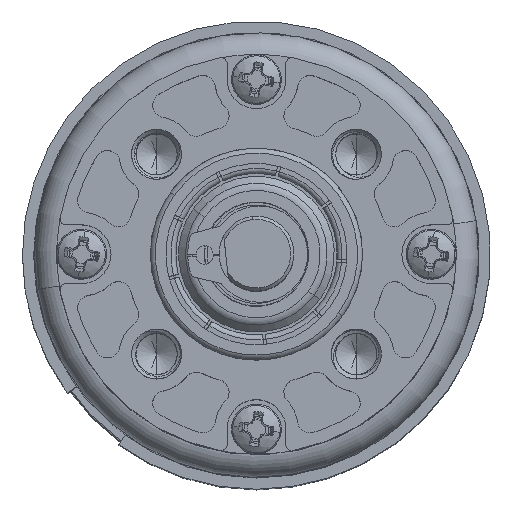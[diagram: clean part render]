
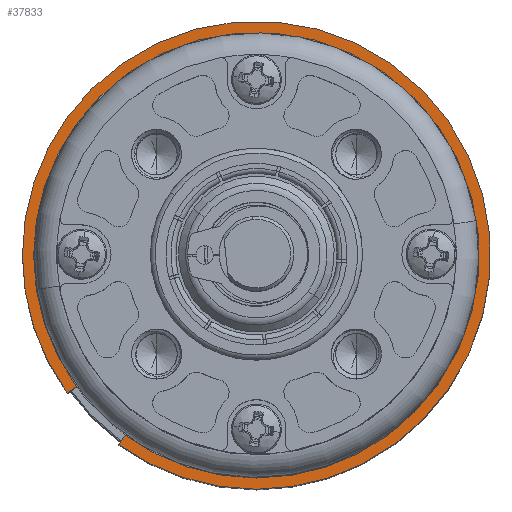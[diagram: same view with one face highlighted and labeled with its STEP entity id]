
A CAD part, top view. The second image highlights one B-rep face of the part: STEP entity #37833.
In plain terms, the highlighted planar face has unit normal (0, 0, 1).
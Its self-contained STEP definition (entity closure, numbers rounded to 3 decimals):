
#273 = EDGE_CURVE ( 'NONE', #17086, #41850, #58215, .T. ) ;
#826 = AXIS2_PLACEMENT_3D ( 'NONE', #48451, #58830, #5223 ) ;
#2481 = CARTESIAN_POINT ( 'NONE',  ( 0., 0., -47.25 ) ) ;
#3942 = CARTESIAN_POINT ( 'NONE',  ( 0., 0., -47.25 ) ) ;
#5107 = ORIENTED_EDGE ( 'NONE', *, *, #273, .T. ) ;
#5179 = DIRECTION ( 'NONE',  ( 0., 0., -1. ) ) ;
#5223 = DIRECTION ( 'NONE',  ( 0.707, -0.707, 0. ) ) ;
#5458 = CARTESIAN_POINT ( 'NONE',  ( 13.258, -13.258, -47.25 ) ) ;
#5649 = DIRECTION ( 'NONE',  ( 0.707, -0.707, 0. ) ) ;
#5764 = AXIS2_PLACEMENT_3D ( 'NONE', #24318, #67544, #66117 ) ;
#6382 = DIRECTION ( 'NONE',  ( -0.589, -0.808, 0. ) ) ;
#6640 = EDGE_CURVE ( 'NONE', #45944, #23009, #18642, .T. ) ;
#6850 = CARTESIAN_POINT ( 'NONE',  ( 0., 0., -47.25 ) ) ;
#6934 = DIRECTION ( 'NONE',  ( 0.707, -0.707, 0. ) ) ;
#7628 = CARTESIAN_POINT ( 'NONE',  ( 0., 0., -47.25 ) ) ;
#8179 = CARTESIAN_POINT ( 'NONE',  ( 12.622, -12.622, -47.25 ) ) ;
#8509 = VECTOR ( 'NONE', #47310, 1000. ) ;
#8746 = EDGE_CURVE ( 'NONE', #10356, #45944, #28248, .T. ) ;
#10356 = VERTEX_POINT ( 'NONE', #56644 ) ;
#10978 = CARTESIAN_POINT ( 'NONE',  ( -10.514, -14.425, -47.25 ) ) ;
#12191 = AXIS2_PLACEMENT_3D ( 'NONE', #7628, #13293, #6934 ) ;
#13293 = DIRECTION ( 'NONE',  ( 0., 0., -1. ) ) ;
#14434 = CARTESIAN_POINT ( 'NONE',  ( -11.044, -15.152, -47.25 ) ) ;
#17086 = VERTEX_POINT ( 'NONE', #10978 ) ;
#17459 = VECTOR ( 'NONE', #6382, 1000. ) ;
#17697 = AXIS2_PLACEMENT_3D ( 'NONE', #2481, #56610, #34771 ) ;
#18642 = CIRCLE ( 'NONE', #40707, 17.85 ) ;
#18857 = CIRCLE ( 'NONE', #5764, 18.75 ) ;
#19072 = DIRECTION ( 'NONE',  ( 0., 0., -1. ) ) ;
#19315 = CARTESIAN_POINT ( 'NONE',  ( 0., 0., -47.25 ) ) ;
#19862 = DIRECTION ( 'NONE',  ( 0.707, -0.707, 0. ) ) ;
#19915 = EDGE_CURVE ( 'NONE', #23009, #17086, #28714, .T. ) ;
#20840 = FACE_OUTER_BOUND ( 'NONE', #34157, .T. ) ;
#23009 = VERTEX_POINT ( 'NONE', #8179 ) ;
#24292 = DIRECTION ( 'NONE',  ( 0.707, -0.707, 0. ) ) ;
#24318 = CARTESIAN_POINT ( 'NONE',  ( 0., 0., -47.25 ) ) ;
#24411 = ORIENTED_EDGE ( 'NONE', *, *, #6640, .T. ) ;
#24752 = CIRCLE ( 'NONE', #35791, 18.75 ) ;
#25169 = ORIENTED_EDGE ( 'NONE', *, *, #38652, .F. ) ;
#25641 = VERTEX_POINT ( 'NONE', #5458 ) ;
#26017 = EDGE_CURVE ( 'NONE', #10356, #57377, #55262, .T. ) ;
#28102 = ORIENTED_EDGE ( 'NONE', *, *, #19915, .T. ) ;
#28248 = CIRCLE ( 'NONE', #826, 17.85 ) ;
#28714 = CIRCLE ( 'NONE', #39145, 17.85 ) ;
#30826 = EDGE_CURVE ( 'NONE', #25641, #41850, #18857, .T. ) ;
#31249 = CIRCLE ( 'NONE', #17697, 18.75 ) ;
#31441 = EDGE_CURVE ( 'NONE', #57377, #41976, #24752, .T. ) ;
#33664 = ORIENTED_EDGE ( 'NONE', *, *, #31441, .F. ) ;
#34036 = ORIENTED_EDGE ( 'NONE', *, *, #8746, .T. ) ;
#34157 = EDGE_LOOP ( 'NONE', ( #51004, #34036, #24411, #28102, #5107, #53608, #25169, #33664 ) ) ;
#34434 = PLANE ( 'NONE',  #12191 ) ;
#34771 = DIRECTION ( 'NONE',  ( 0.707, -0.707, 0. ) ) ;
#35791 = AXIS2_PLACEMENT_3D ( 'NONE', #19315, #19072, #24292 ) ;
#35817 = CARTESIAN_POINT ( 'NONE',  ( -12.622, 12.622, -47.25 ) ) ;
#36314 = CARTESIAN_POINT ( 'NONE',  ( -15.152, -11.044, -47.25 ) ) ;
#37833 = ADVANCED_FACE ( 'NONE', ( #20840 ), #34434, .F. ) ;
#38652 = EDGE_CURVE ( 'NONE', #41976, #25641, #31249, .T. ) ;
#39145 = AXIS2_PLACEMENT_3D ( 'NONE', #53587, #5179, #5649 ) ;
#40707 = AXIS2_PLACEMENT_3D ( 'NONE', #3942, #68311, #19862 ) ;
#41850 = VERTEX_POINT ( 'NONE', #14434 ) ;
#41976 = VERTEX_POINT ( 'NONE', #60213 ) ;
#45944 = VERTEX_POINT ( 'NONE', #35817 ) ;
#47310 = DIRECTION ( 'NONE',  ( -0.808, -0.589, 0. ) ) ;
#48451 = CARTESIAN_POINT ( 'NONE',  ( 0., 0., -47.25 ) ) ;
#51004 = ORIENTED_EDGE ( 'NONE', *, *, #26017, .F. ) ;
#53255 = CARTESIAN_POINT ( 'NONE',  ( 0., 0., -47.25 ) ) ;
#53587 = CARTESIAN_POINT ( 'NONE',  ( 0., 0., -47.25 ) ) ;
#53608 = ORIENTED_EDGE ( 'NONE', *, *, #30826, .F. ) ;
#55262 = LINE ( 'NONE', #53255, #8509 ) ;
#56610 = DIRECTION ( 'NONE',  ( 0., 0., -1. ) ) ;
#56644 = CARTESIAN_POINT ( 'NONE',  ( -14.425, -10.514, -47.25 ) ) ;
#57377 = VERTEX_POINT ( 'NONE', #36314 ) ;
#58215 = LINE ( 'NONE', #6850, #17459 ) ;
#58830 = DIRECTION ( 'NONE',  ( 0., 0., -1. ) ) ;
#60213 = CARTESIAN_POINT ( 'NONE',  ( -13.258, 13.258, -47.25 ) ) ;
#66117 = DIRECTION ( 'NONE',  ( 0.707, -0.707, 0. ) ) ;
#67544 = DIRECTION ( 'NONE',  ( 0., 0., -1. ) ) ;
#68311 = DIRECTION ( 'NONE',  ( 0., 0., -1. ) ) ;
